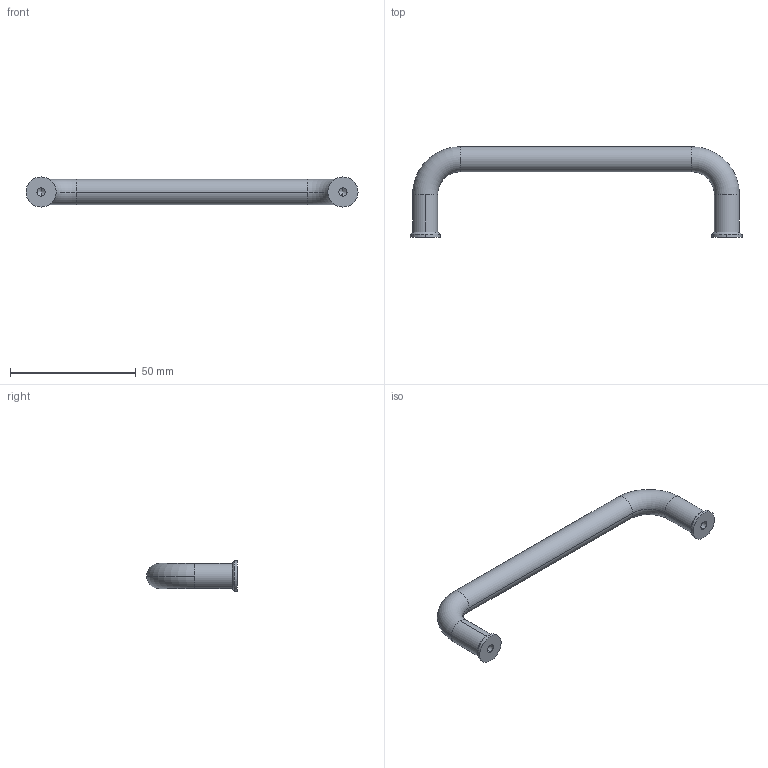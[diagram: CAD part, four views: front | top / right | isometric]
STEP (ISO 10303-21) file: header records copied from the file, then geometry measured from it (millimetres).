
FILE_DESCRIPTION (( 'STEP AP203' ), '1' );
FILE_NAME ('C060413.STEP', '2018-02-27T09:53:48', ( '' ), ( '' ), 'SwSTEP 2.0', 'SolidWorks 2016', '' );
FILE_SCHEMA (( 'CONFIG_CONTROL_DESIGN' ));
Length unit declared in the file: millimetre
Products named in the file (1): C060413
Bounding box: 132 x 36 x 12 mm (x, y, z)
Volume: 13254.6 mm3; surface area: 5875.3 mm2
Topology: 1 solids, 1 shells, 30 faces, 64 edges, 36 vertices
Faces by surface type: cylinder 14, cone 8, torus 4, plane 4
Entity records: 863 total; most frequent: DIRECTION 160, CARTESIAN_POINT 127, ORIENTED_EDGE 120, AXIS2_PLACEMENT_3D 69, EDGE_CURVE 60, CIRCLE 38, VERTEX_POINT 36, EDGE_LOOP 34
